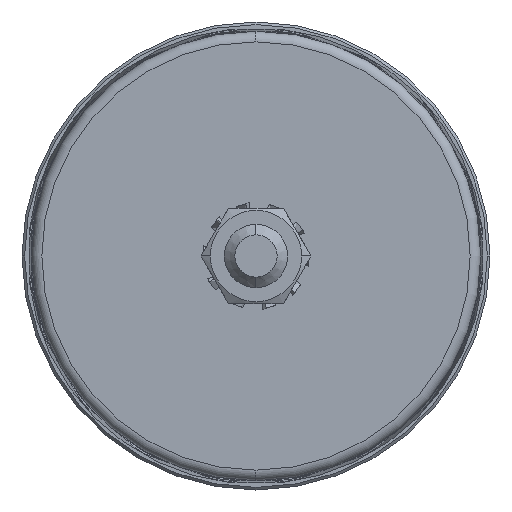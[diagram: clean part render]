
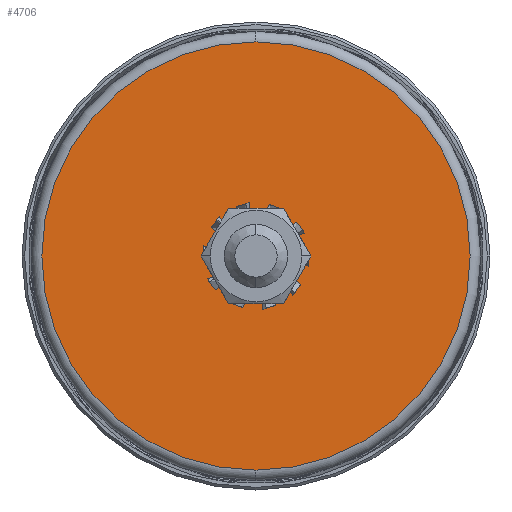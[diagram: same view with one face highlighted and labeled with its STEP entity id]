
A CAD part, front view. The second image highlights one B-rep face of the part: STEP entity #4706.
In plain terms, the highlighted planar face has unit normal (0, -1, 0).
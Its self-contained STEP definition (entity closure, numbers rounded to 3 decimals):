
#20 = CARTESIAN_POINT ( 'NONE',  ( 6., 0., 0. ) ) ;
#53 = AXIS2_PLACEMENT_3D ( 'NONE', #14394, #9371, #13125 ) ;
#138 = DIRECTION ( 'NONE',  ( 0., -1., 0. ) ) ;
#943 = CARTESIAN_POINT ( 'NONE',  ( 0., 0., 0. ) ) ;
#1004 = PLANE ( 'NONE',  #4961 ) ;
#1277 = AXIS2_PLACEMENT_3D ( 'NONE', #943, #11919, #8445 ) ;
#2275 = CARTESIAN_POINT ( 'NONE',  ( 0., 0., 0. ) ) ;
#2328 = DIRECTION ( 'NONE',  ( 0., 0., -1. ) ) ;
#2767 = AXIS2_PLACEMENT_3D ( 'NONE', #2275, #12091, #2328 ) ;
#3330 = VERTEX_POINT ( 'NONE', #11531 ) ;
#4270 = EDGE_CURVE ( 'NONE', #12758, #10760, #6457, .T. ) ;
#4381 = VERTEX_POINT ( 'NONE', #6058 ) ;
#4706 = ADVANCED_FACE ( 'NONE', ( #7413, #5891 ), #1004, .T. ) ;
#4877 = DIRECTION ( 'NONE',  ( 0., 1., 0. ) ) ;
#4961 = AXIS2_PLACEMENT_3D ( 'NONE', #20, #138, #14769 ) ;
#5891 = FACE_OUTER_BOUND ( 'NONE', #12727, .T. ) ;
#6058 = CARTESIAN_POINT ( 'NONE',  ( 0., 0., 8. ) ) ;
#6298 = CARTESIAN_POINT ( 'NONE',  ( 0., 0., -40.5 ) ) ;
#6457 = CIRCLE ( 'NONE', #2767, 40.5 ) ;
#6578 = ORIENTED_EDGE ( 'NONE', *, *, #11923, .T. ) ;
#7041 = EDGE_CURVE ( 'NONE', #10760, #12758, #9397, .T. ) ;
#7413 = FACE_BOUND ( 'NONE', #12375, .T. ) ;
#7583 = ORIENTED_EDGE ( 'NONE', *, *, #14160, .T. ) ;
#8445 = DIRECTION ( 'NONE',  ( 0., 0., -1. ) ) ;
#8680 = CIRCLE ( 'NONE', #10819, 8. ) ;
#9371 = DIRECTION ( 'NONE',  ( 0., -1., 0. ) ) ;
#9397 = CIRCLE ( 'NONE', #53, 40.5 ) ;
#10122 = CIRCLE ( 'NONE', #1277, 8. ) ;
#10760 = VERTEX_POINT ( 'NONE', #11817 ) ;
#10819 = AXIS2_PLACEMENT_3D ( 'NONE', #10993, #4877, #11163 ) ;
#10993 = CARTESIAN_POINT ( 'NONE',  ( 0., 0., 0. ) ) ;
#11163 = DIRECTION ( 'NONE',  ( 0., 0., -1. ) ) ;
#11531 = CARTESIAN_POINT ( 'NONE',  ( 0., 0., -8. ) ) ;
#11817 = CARTESIAN_POINT ( 'NONE',  ( 0., 0., 40.5 ) ) ;
#11919 = DIRECTION ( 'NONE',  ( 0., 1., 0. ) ) ;
#11923 = EDGE_CURVE ( 'NONE', #3330, #4381, #8680, .T. ) ;
#12091 = DIRECTION ( 'NONE',  ( 0., -1., 0. ) ) ;
#12375 = EDGE_LOOP ( 'NONE', ( #6578, #7583 ) ) ;
#12693 = ORIENTED_EDGE ( 'NONE', *, *, #4270, .T. ) ;
#12727 = EDGE_LOOP ( 'NONE', ( #12693, #13097 ) ) ;
#12758 = VERTEX_POINT ( 'NONE', #6298 ) ;
#13097 = ORIENTED_EDGE ( 'NONE', *, *, #7041, .T. ) ;
#13125 = DIRECTION ( 'NONE',  ( 0., 0., -1. ) ) ;
#14160 = EDGE_CURVE ( 'NONE', #4381, #3330, #10122, .T. ) ;
#14394 = CARTESIAN_POINT ( 'NONE',  ( 0., 0., 0. ) ) ;
#14769 = DIRECTION ( 'NONE',  ( 0., 0., -1. ) ) ;
